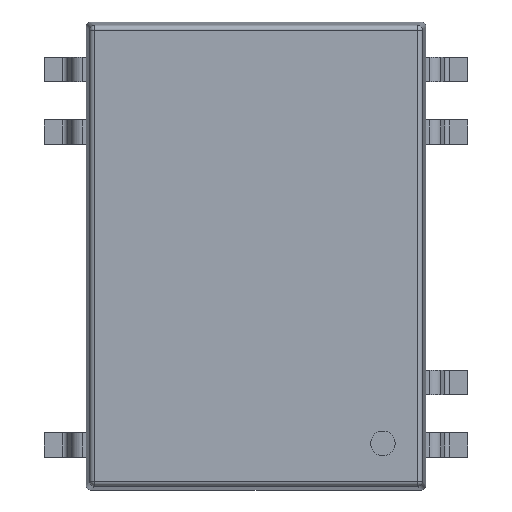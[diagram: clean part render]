
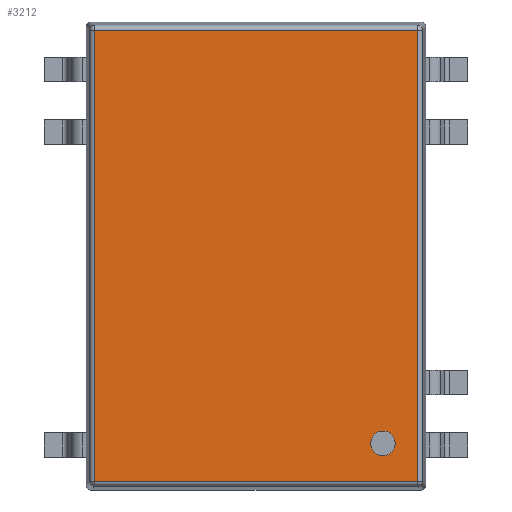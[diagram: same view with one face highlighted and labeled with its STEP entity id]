
A CAD part, top view. The second image highlights one B-rep face of the part: STEP entity #3212.
In plain terms, the highlighted planar face has unit normal (0, 0, 1).
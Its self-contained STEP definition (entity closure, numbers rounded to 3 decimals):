
#141=FACE_BOUND('',#545,.T.);
#188=CIRCLE('',#3422,0.5);
#357=FACE_OUTER_BOUND('',#544,.T.);
#544=EDGE_LOOP('',(#2242,#2243,#2244,#2245));
#545=EDGE_LOOP('',(#2246));
#748=LINE('',#4688,#1092);
#750=LINE('',#4691,#1094);
#752=LINE('',#4694,#1096);
#758=LINE('',#4707,#1102);
#1092=VECTOR('',#3750,18.312);
#1094=VECTOR('',#3754,13.112);
#1096=VECTOR('',#3758,13.112);
#1102=VECTOR('',#3770,18.312);
#1432=VERTEX_POINT('',#4649);
#1437=VERTEX_POINT('',#4659);
#1439=VERTEX_POINT('',#4664);
#1441=VERTEX_POINT('',#4670);
#1460=VERTEX_POINT('',#4733);
#1743=EDGE_CURVE('',#1439,#1441,#748,.T.);
#1745=EDGE_CURVE('',#1441,#1437,#750,.T.);
#1747=EDGE_CURVE('',#1432,#1439,#752,.T.);
#1754=EDGE_CURVE('',#1437,#1432,#758,.T.);
#1767=EDGE_CURVE('',#1460,#1460,#188,.T.);
#2242=ORIENTED_EDGE('',*,*,#1743,.F.);
#2243=ORIENTED_EDGE('',*,*,#1747,.F.);
#2244=ORIENTED_EDGE('',*,*,#1754,.F.);
#2245=ORIENTED_EDGE('',*,*,#1745,.F.);
#2246=ORIENTED_EDGE('',*,*,#1767,.T.);
#3078=PLANE('',#3421);
#3212=ADVANCED_FACE('',(#357,#141),#3078,.T.);
#3421=AXIS2_PLACEMENT_3D('',#4732,#3793,#3794);
#3422=AXIS2_PLACEMENT_3D('',#4734,#3795,#3796);
#3750=DIRECTION('',(0.,-1.,0.));
#3754=DIRECTION('',(-1.,0.,0.));
#3758=DIRECTION('',(1.,0.,0.));
#3770=DIRECTION('',(0.,1.,0.));
#3793=DIRECTION('center_axis',(0.,0.,1.));
#3794=DIRECTION('ref_axis',(1.,0.,0.));
#3795=DIRECTION('center_axis',(0.,0.,-1.));
#3796=DIRECTION('ref_axis',(-1.,0.,0.));
#4649=CARTESIAN_POINT('',(-6.556,9.156,8.6));
#4659=CARTESIAN_POINT('',(-6.556,-9.156,8.6));
#4664=CARTESIAN_POINT('',(6.556,9.156,8.6));
#4670=CARTESIAN_POINT('',(6.556,-9.156,8.6));
#4688=CARTESIAN_POINT('',(6.556,4.676,8.6));
#4691=CARTESIAN_POINT('',(3.376,-9.156,8.6));
#4694=CARTESIAN_POINT('',(-3.376,9.156,8.6));
#4707=CARTESIAN_POINT('',(-6.556,-4.676,8.6));
#4732=CARTESIAN_POINT('Origin',(0.,0.,8.6));
#4733=CARTESIAN_POINT('',(5.65,-7.62,8.6));
#4734=CARTESIAN_POINT('Origin',(5.15,-7.62,8.6));
